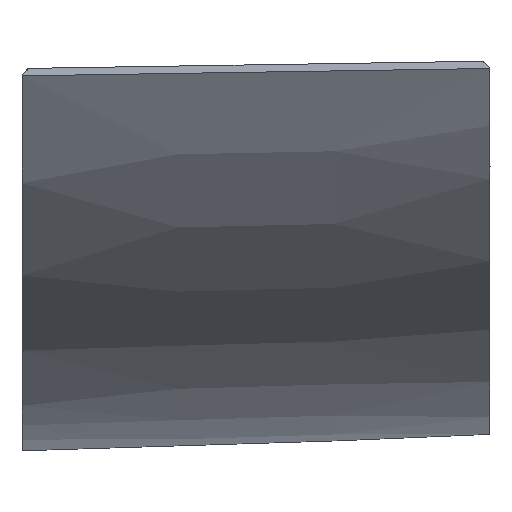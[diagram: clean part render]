
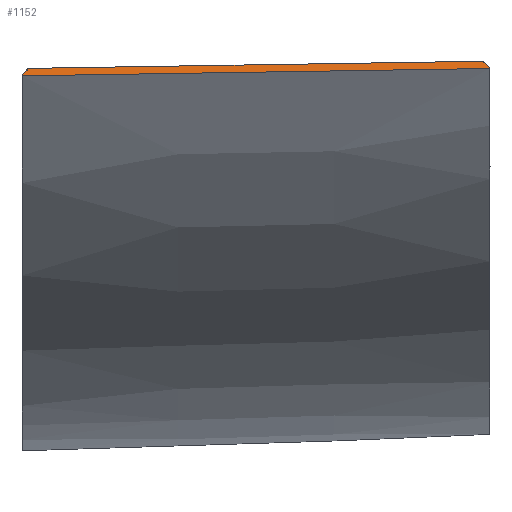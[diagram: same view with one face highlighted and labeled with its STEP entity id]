
A CAD part, top view. The second image highlights one B-rep face of the part: STEP entity #1152.
In plain terms, the highlighted free-form (B-spline) face has degree [1, 3] with [2, 4] control points.
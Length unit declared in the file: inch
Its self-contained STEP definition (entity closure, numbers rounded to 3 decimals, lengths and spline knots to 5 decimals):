
#12 = CARTESIAN_POINT ( 'NONE',  ( -47.91395, -139.18, 33.09323 ) ) ;
#19 = ORIENTED_EDGE ( 'NONE', *, *, #34, .T. ) ;
#25 = VERTEX_POINT ( 'NONE', #1148 ) ;
#33 = EDGE_CURVE ( 'NONE', #25, #639, #466, .T. ) ;
#34 = EDGE_CURVE ( 'NONE', #25, #1220, #1233, .T. ) ;
#40 = ORIENTED_EDGE ( 'NONE', *, *, #89, .T. ) ;
#58 = CARTESIAN_POINT ( 'NONE',  ( -47.62699, -138.79922, 32.43621 ) ) ;
#73 = CARTESIAN_POINT ( 'NONE',  ( -31.99728, -138.93001, 32.66021 ) ) ;
#89 = EDGE_CURVE ( 'NONE', #1220, #408, #1370, .T. ) ;
#187 = CARTESIAN_POINT ( 'NONE',  ( -47.8183, -139.05307, 32.87422 ) ) ;
#212 = CARTESIAN_POINT ( 'NONE',  ( -39.95562, -139.055, 32.87672 ) ) ;
#213 = CARTESIAN_POINT ( 'NONE',  ( -24.37301, -138.43398, 31.80358 ) ) ;
#257 = CARTESIAN_POINT ( 'NONE',  ( -32.02083, -138.5541, 32.01164 ) ) ;
#305 = CARTESIAN_POINT ( 'NONE',  ( -47.62699, -138.79922, 32.43621 ) ) ;
#369 = FACE_OUTER_BOUND ( 'NONE', #1091, .T. ) ;
#408 = VERTEX_POINT ( 'NONE', #1262 ) ;
#434 = CARTESIAN_POINT ( 'NONE',  ( -24.03895, -138.80502, 32.4437 ) ) ;
#461 = CARTESIAN_POINT ( 'NONE',  ( -47.72265, -138.92615, 32.65522 ) ) ;
#466 = B_SPLINE_CURVE_WITH_KNOTS ( 'NONE', 3,
 ( #434, #73, #212, #1254 ),
 .UNSPECIFIED., .F., .F.,
 ( 4, 4 ),
 ( 0., 1. ),
 .UNSPECIFIED. ) ;
#535 = EDGE_CURVE ( 'NONE', #408, #639, #1393, .T. ) ;
#559 = CARTESIAN_POINT ( 'NONE',  ( -32.12434, -138.55573, 32.01446 ) ) ;
#639 = VERTEX_POINT ( 'NONE', #1276 ) ;
#675 = CARTESIAN_POINT ( 'NONE',  ( -47.91395, -139.18, 33.09323 ) ) ;
#704 = CARTESIAN_POINT ( 'NONE',  ( -31.99728, -138.93001, 32.66021 ) ) ;
#725 = CARTESIAN_POINT ( 'NONE',  ( -39.95562, -139.055, 32.87672 ) ) ;
#793 = CARTESIAN_POINT ( 'NONE',  ( -24.1503, -138.68134, 32.23033 ) ) ;
#955 = CARTESIAN_POINT ( 'NONE',  ( -39.97917, -138.6791, 32.22815 ) ) ;
#962 = CARTESIAN_POINT ( 'NONE',  ( -24.03895, -138.80502, 32.4437 ) ) ;
#1028 = CARTESIAN_POINT ( 'NONE',  ( -39.87566, -138.67747, 32.22534 ) ) ;
#1091 = EDGE_LOOP ( 'NONE', ( #40, #1340, #1114, #19 ) ) ;
#1114 = ORIENTED_EDGE ( 'NONE', *, *, #33, .F. ) ;
#1148 = CARTESIAN_POINT ( 'NONE',  ( -24.03895, -138.80502, 32.4437 ) ) ;
#1152 = ADVANCED_FACE ( 'NONE', ( #369 ), #1239, .T. ) ;
#1191 = CARTESIAN_POINT ( 'NONE',  ( -24.0625, -138.4291, 31.79514 ) ) ;
#1207 = CARTESIAN_POINT ( 'NONE',  ( -47.9375, -138.8041, 32.44466 ) ) ;
#1220 = VERTEX_POINT ( 'NONE', #213 ) ;
#1233 = B_SPLINE_CURVE_WITH_KNOTS ( 'NONE', 3,
 ( #1519, #793, #1385, #1527 ),
 .UNSPECIFIED., .F., .F.,
 ( 4, 4 ),
 ( 0., 1. ),
 .UNSPECIFIED. ) ;
#1239 = B_SPLINE_SURFACE_WITH_KNOTS ( 'NONE', 1, 3, ( 
 ( #962, #704, #725, #12 ),
 ( #1191, #257, #955, #1207 ) ),
 .UNSPECIFIED., .F., .F., .F.,
 ( 2, 2 ),
 ( 4, 4 ),
 ( 0., 1. ),
 ( -0.30336, 0.30336 ),
 .UNSPECIFIED. ) ;
#1254 = CARTESIAN_POINT ( 'NONE',  ( -47.91395, -139.18, 33.09323 ) ) ;
#1262 = CARTESIAN_POINT ( 'NONE',  ( -47.62699, -138.79922, 32.43621 ) ) ;
#1270 = CARTESIAN_POINT ( 'NONE',  ( -24.37301, -138.43398, 31.80358 ) ) ;
#1276 = CARTESIAN_POINT ( 'NONE',  ( -47.91395, -139.18, 33.09323 ) ) ;
#1340 = ORIENTED_EDGE ( 'NONE', *, *, #535, .T. ) ;
#1370 = B_SPLINE_CURVE_WITH_KNOTS ( 'NONE', 3,
 ( #1270, #559, #1028, #305 ),
 .UNSPECIFIED., .F., .F.,
 ( 4, 4 ),
 ( 0.01301, 0.98699 ),
 .UNSPECIFIED. ) ;
#1385 = CARTESIAN_POINT ( 'NONE',  ( -24.26166, -138.55766, 32.01696 ) ) ;
#1393 = B_SPLINE_CURVE_WITH_KNOTS ( 'NONE', 3,
 ( #58, #461, #187, #675 ),
 .UNSPECIFIED., .F., .F.,
 ( 4, 4 ),
 ( 0., 1. ),
 .UNSPECIFIED. ) ;
#1519 = CARTESIAN_POINT ( 'NONE',  ( -24.03895, -138.80502, 32.4437 ) ) ;
#1527 = CARTESIAN_POINT ( 'NONE',  ( -24.37301, -138.43398, 31.80358 ) ) ;
